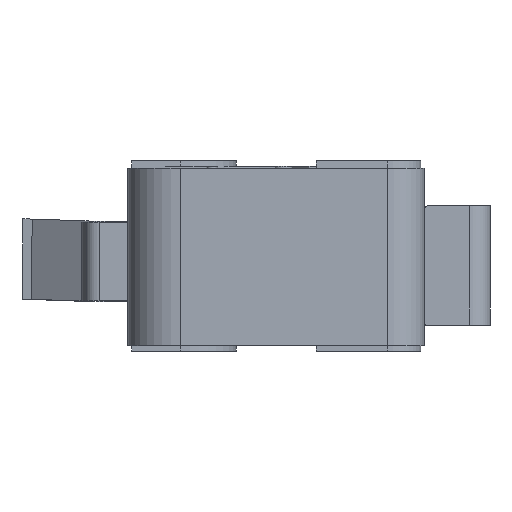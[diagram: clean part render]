
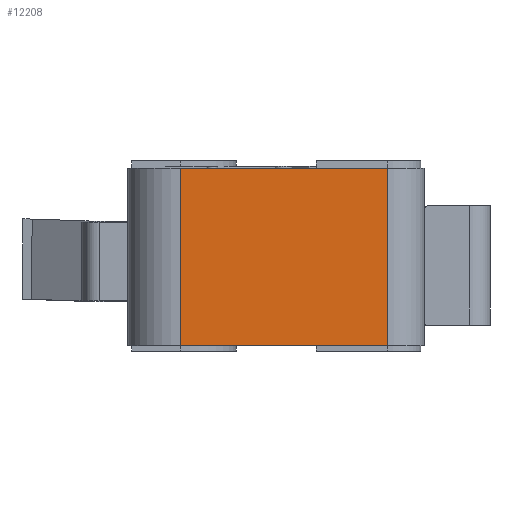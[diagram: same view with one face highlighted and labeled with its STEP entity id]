
A CAD part, left-side view. The second image highlights one B-rep face of the part: STEP entity #12208.
In plain terms, the highlighted planar face has unit normal (-1, 0, 0).
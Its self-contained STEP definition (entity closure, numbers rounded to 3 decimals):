
#166=DIRECTION('',(0.,1.,0.));
#167=VECTOR('',#166,11.1);
#168=CARTESIAN_POINT('',(-27.322,-2.908,4.8));
#169=LINE('',#168,#167);
#170=DIRECTION('',(0.,0.,-1.));
#171=VECTOR('',#170,9.5);
#172=CARTESIAN_POINT('',(-27.322,-2.908,4.8));
#173=LINE('',#172,#171);
#178=DIRECTION('',(0.,0.,-1.));
#179=VECTOR('',#178,9.5);
#180=CARTESIAN_POINT('',(-27.322,8.192,4.8));
#181=LINE('',#180,#179);
#5783=DIRECTION('',(0.,1.,0.));
#5784=VECTOR('',#5783,11.1);
#5785=CARTESIAN_POINT('',(-27.322,-2.908,
-4.7));
#5786=LINE('',#5785,#5784);
#9859=CARTESIAN_POINT('',(-27.322,-2.908,
-4.7));
#9861=VERTEX_POINT('',#9859);
#9874=CARTESIAN_POINT('',(-27.322,8.192,
-4.7));
#9876=VERTEX_POINT('',#9874);
#11433=CARTESIAN_POINT('',(-27.322,-2.908,
4.8));
#11434=CARTESIAN_POINT('',(-27.322,8.192,
4.8));
#11435=VERTEX_POINT('',#11433);
#11436=VERTEX_POINT('',#11434);
#12194=CARTESIAN_POINT('',(-27.322,10.992,
-4.7));
#12195=DIRECTION('',(-1.,0.,0.));
#12196=DIRECTION('',(0.,-1.,0.));
#12197=AXIS2_PLACEMENT_3D('',#12194,#12195,#12196);
#12198=PLANE('',#12197);
#12200=ORIENTED_EDGE('',*,*,#12199,.F.);
#12202=ORIENTED_EDGE('',*,*,#12201,.F.);
#12203=ORIENTED_EDGE('',*,*,#12184,.T.);
#12205=ORIENTED_EDGE('',*,*,#12204,.T.);
#12206=EDGE_LOOP('',(#12200,#12202,#12203,#12205));
#12207=FACE_OUTER_BOUND('',#12206,.F.);
#12208=ADVANCED_FACE('',(#12207),#12198,.T.);
#12184=EDGE_CURVE('',#11435,#9861,#173,.T.);
#12199=EDGE_CURVE('',#11436,#9876,#181,.T.);
#12201=EDGE_CURVE('',#11435,#11436,#169,.T.);
#12204=EDGE_CURVE('',#9861,#9876,#5786,.T.);
